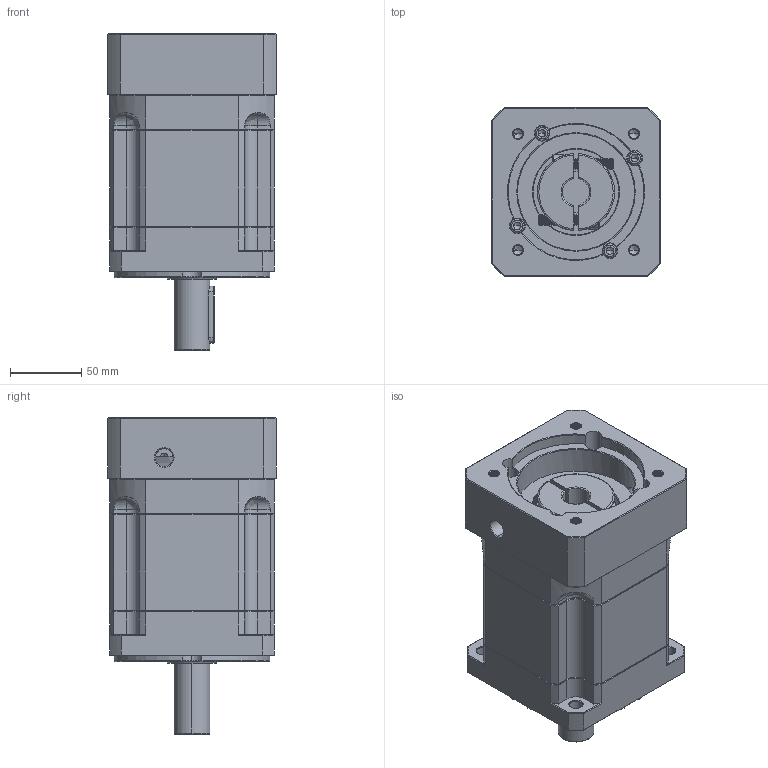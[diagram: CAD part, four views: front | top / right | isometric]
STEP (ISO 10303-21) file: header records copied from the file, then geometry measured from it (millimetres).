
FILE_DESCRIPTION (( 'STEP AP214' ), '1' );
FILE_NAME ('ZB115A-D25-L2-P2-19-95-115-M8.step', '2023-08-26T06:23:02', ( '' ), ( '' ), 'SwSTEP 2.0', 'SolidWorks 2016', '' );
FILE_SCHEMA (( 'AUTOMOTIVE_DESIGN' ));
Length unit declared in the file: millimetre
Products named in the file (1): ZB115A-D25-L2-P2-19-95-115-M8
Bounding box: 118 x 118 x 222 mm (x, y, z)
Volume: 1918937.2 mm3; surface area: 181216.7 mm2
Topology: 6 solids, 6 shells, 2420 faces, 6399 edges, 4073 vertices
Faces by surface type: plane 1144, cylinder 450, bspline 443, cone 383
Entity records: 130405 total; most frequent: CARTESIAN_POINT 47512, ORIENTED_EDGE 12730, DIRECTION 10070, EDGE_CURVE 6365, VERTEX_POINT 4073, LINE 4012, VECTOR 4012, AXIS2_PLACEMENT_3D 3029
